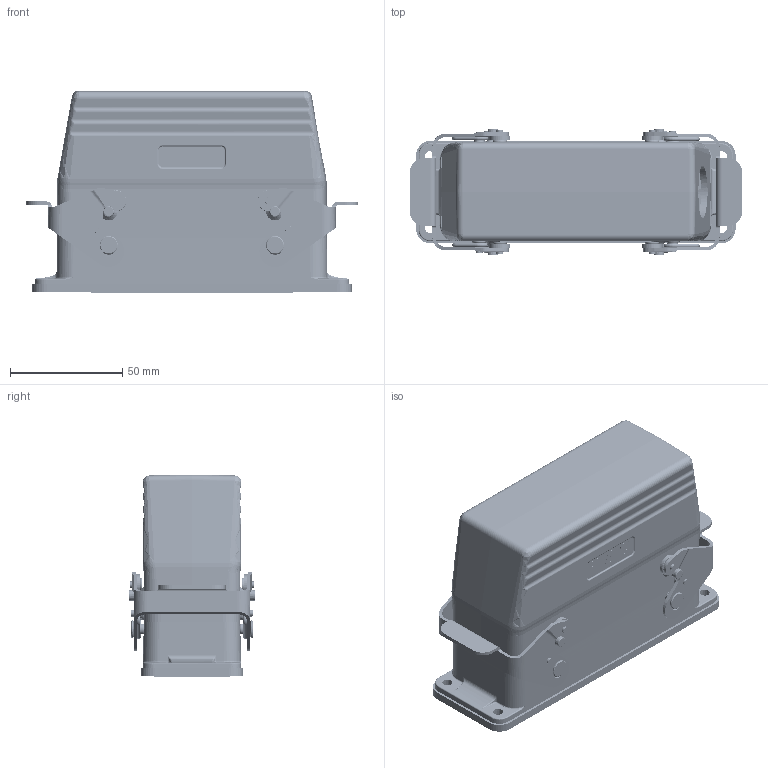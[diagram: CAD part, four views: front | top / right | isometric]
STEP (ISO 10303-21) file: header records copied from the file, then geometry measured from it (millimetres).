
FILE_DESCRIPTION (( 'STEP AP214' ), '1' );
FILE_NAME ('09124101125 HESH、24针、开孔底座、侧出M25套件.STEP', '2024-04-30T04:57:17', ( 'L' ), ( '' ), 'SwSTEP 2.0', 'SolidWorks 2019', '' );
FILE_SCHEMA (( 'AUTOMOTIVE_DESIGN' ));
Length unit declared in the file: millimetre
Products named in the file (5): H24B-TS-M25.step; H24B-AG.step; 09124101125 HESH、24针、开孔底座、侧出M25套件; HESH-024-M.stp; HESH-024-F.stp
Assembly tree (4 placements, depth 2):
  09124101125 HESH、24针、开孔底座、侧出M25套件
    H24B-AG.step
    H24B-TS-M25.step
    HESH-024-M.stp
    HESH-024-F.stp
Bounding box: 147.79 x 56.4 x 90.15 mm (x, y, z)
Volume: 280176.2 mm3; surface area: 146979.2 mm2
Topology: 4 solids, 12 shells, 4697 faces, 12083 edges, 7602 vertices
Faces by surface type: plane 2207, cylinder 1219, cone 630, bspline 379, torus 202, sphere 60
Entity records: 178900 total; most frequent: CARTESIAN_POINT 55276, ORIENTED_EDGE 23914, DIRECTION 21807, EDGE_CURVE 11957, VERTEX_POINT 7602, AXIS2_PLACEMENT_3D 7546, LINE 6715, VECTOR 6715
